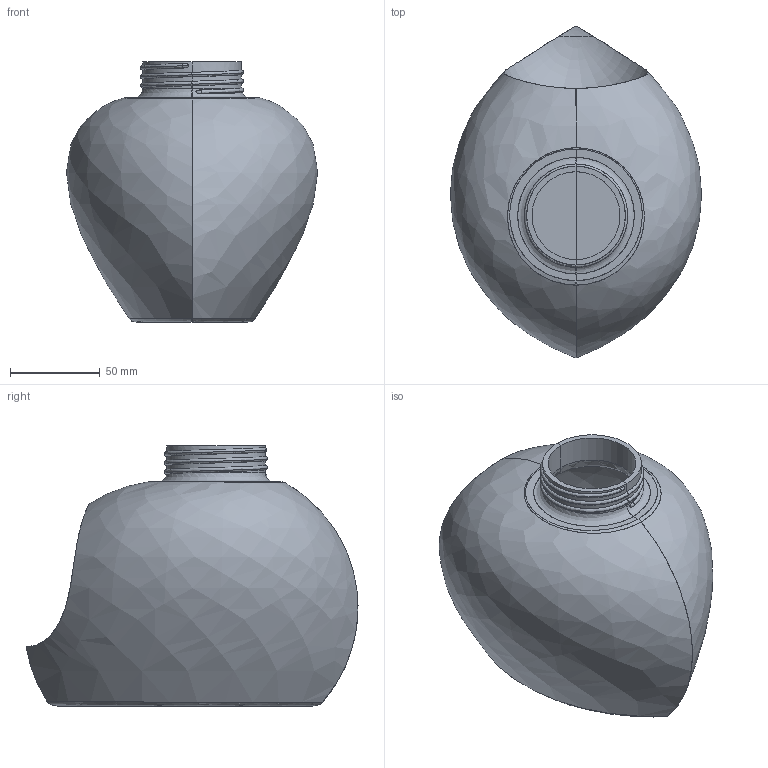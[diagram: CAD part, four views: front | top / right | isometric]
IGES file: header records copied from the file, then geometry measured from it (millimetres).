
Start section: START RECORD GO HERE.
Global section: file name: c1-Garcia_Granada_Andres-solucion-posible.igs; native system: IBM CATIA IGES - CATIA Version 5 Release 19 ; preprocessor: CATIA Version 5 Release 19 ; author: andres.garcia; organization: IQS; date: 20200131.144223; units: millimetre
Bounding box: 140.03 x 185.06 x 145 mm (x, y, z)
Surface area: 147775.9 mm2 (no closed solid volume)
Topology: 0 solids, 0 shells, 54 faces, 252 edges, 248 vertices
Faces by surface type: bspline 32, revolution 16, plane 6
